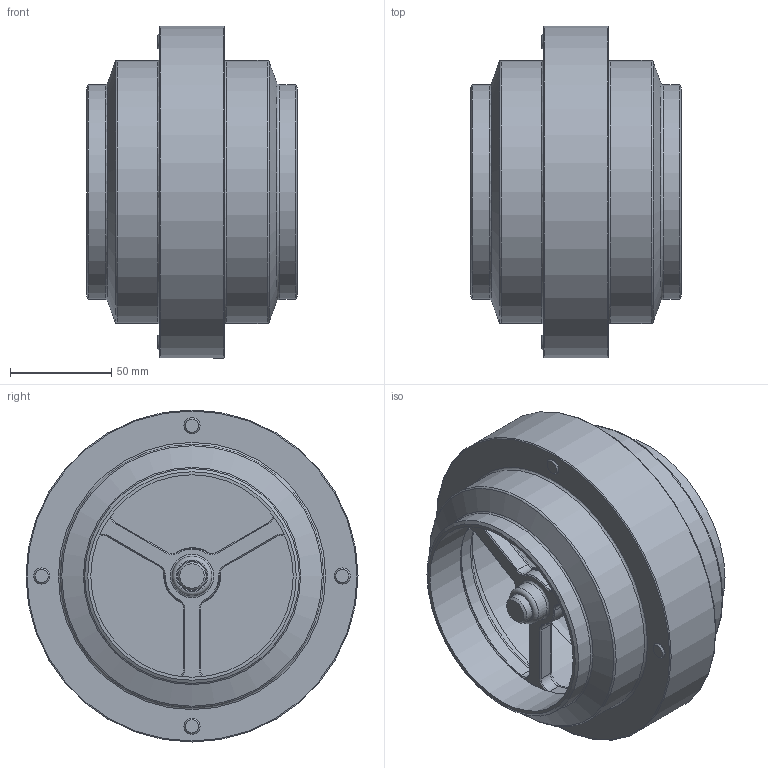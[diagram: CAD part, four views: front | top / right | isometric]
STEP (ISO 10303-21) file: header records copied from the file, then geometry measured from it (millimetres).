
FILE_DESCRIPTION((''),'2;1');
FILE_NAME('K:\2013 konstrukce\5xxxx\50800-ZPĚTNÝ VENTIL S-S\5080D-100.stp','2021-01-22T08:03:54',('konstrukce3'),(''),'Autodesk Inventor 2010','Autodesk Inventor 2010','');
FILE_SCHEMA(('AUTOMOTIVE_DESIGN { 1 0 10303 214 1 1 1 1 }'));
Length unit declared in the file: millimetre
Products named in the file (1): Součást9
Bounding box: 104 x 164 x 164 mm (x, y, z)
Volume: 644072.3 mm3; surface area: 151485 mm2
Topology: 8 solids, 8 shells, 245 faces, 549 edges, 334 vertices
Faces by surface type: plane 76, cylinder 56, cone 43, torus 38, bspline 32
Full cylindrical faces by diameter (mm): 8 x8, 13 x4, 14 x2, 19.5 x3, 94 x1, 95 x1, 100 x2, 104 x1, 106 x2, 113.5 x1, 124.5 x1, 128 x1, 130 x2, 164 x1
Entity records: 10456 total; most frequent: CARTESIAN_POINT 5270, DIRECTION 1047, ORIENTED_EDGE 864, AXIS2_PLACEMENT_3D 460, EDGE_CURVE 432, EDGE_LOOP 376, VERTEX_POINT 312, CIRCLE 246
